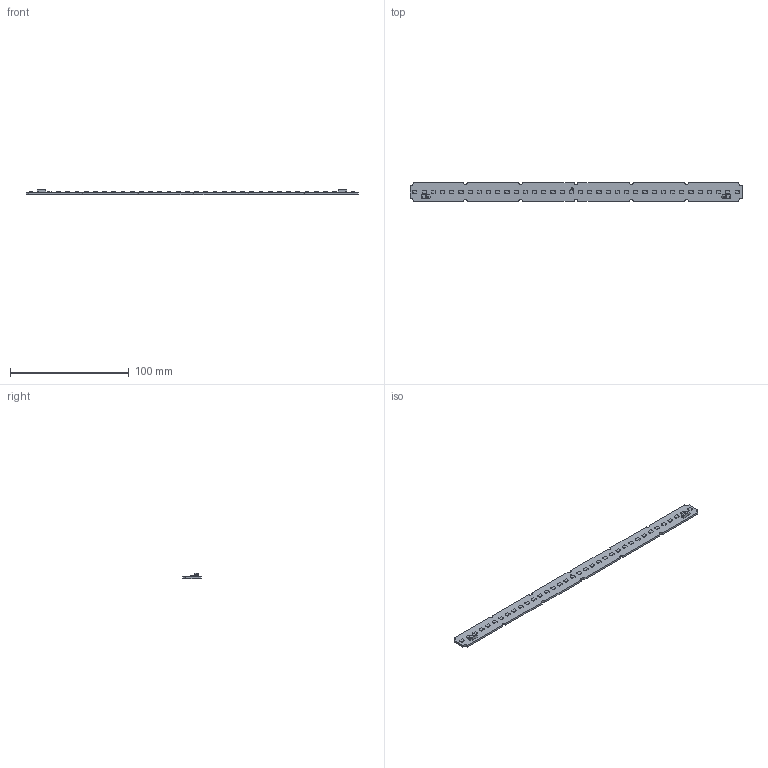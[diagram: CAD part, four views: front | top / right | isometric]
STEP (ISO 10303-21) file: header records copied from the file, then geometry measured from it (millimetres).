
FILE_DESCRIPTION((''),'2;1');
FILE_NAME('16208878_LLE-G5-16X280-HV','2021-04-15T13:41:31',('Bernhard.Fink'),(''),'CREO PARAMETRIC BY PTC INC, 2019164','CREO PARAMETRIC BY PTC INC, 2019164','');
FILE_SCHEMA(('CONFIG_CONTROL_DESIGN'));
Length unit declared in the file: millimetre
Products named in the file (1): 16208878_LLE-G5-16X280-HV
Bounding box: 279.6 x 15.8 x 4.35 mm (x, y, z)
Volume: 7487.2 mm3; surface area: 10184.9 mm2
Topology: 1 solids, 1 shells, 1257 faces, 3626 edges, 2416 vertices
Faces by surface type: plane 1051, cylinder 202, torus 4
Entity records: 44303 total; most frequent: CARTESIAN_POINT 11678, ORIENTED_EDGE 7252, DIRECTION 5952, EDGE_CURVE 3626, VECTOR 3210, LINE 3210, VERTEX_POINT 2416, AXIS2_PLACEMENT_3D 1371
